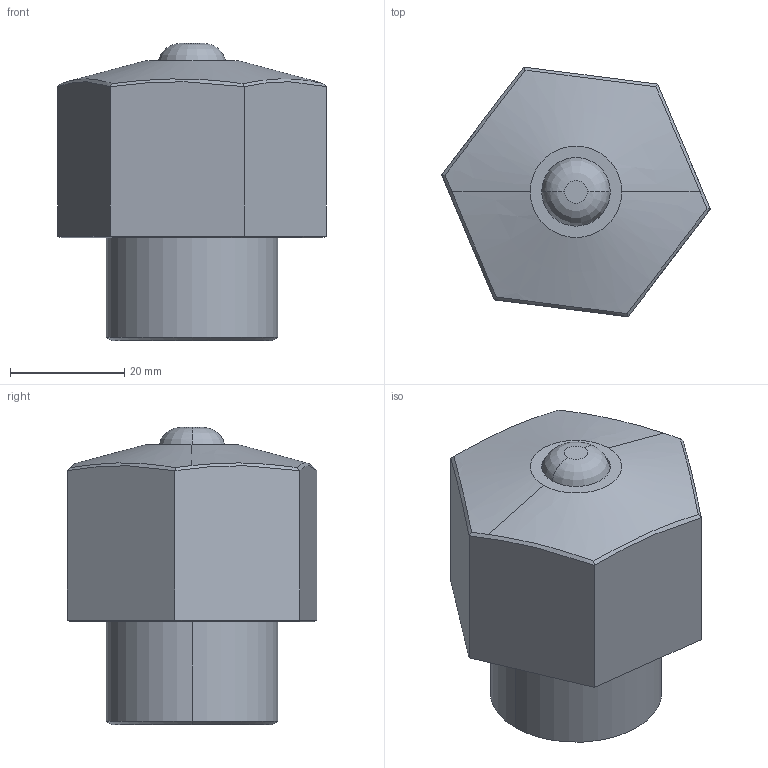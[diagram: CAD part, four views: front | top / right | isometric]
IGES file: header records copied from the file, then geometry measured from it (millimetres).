
Start section: SolidWorks IGES file using analytic representation for surfaces
Global section: file name: F:\TO4C-THREADED BODY-PUSHER\YO4C-M302.IGS; native system: SolidWorks 2019; preprocessor: SolidWorks 2019; author: ADMIN; date: 200802.111123; units: millimetre
Bounding box: 46.97 x 43.65 x 52 mm (x, y, z)
Volume: 54083.3 mm3; surface area: 11373.1 mm2
Topology: 2 solids, 2 shells, 42 faces, 86 edges, 52 vertices
Faces by surface type: plane 20, revolution 16, bspline 6
